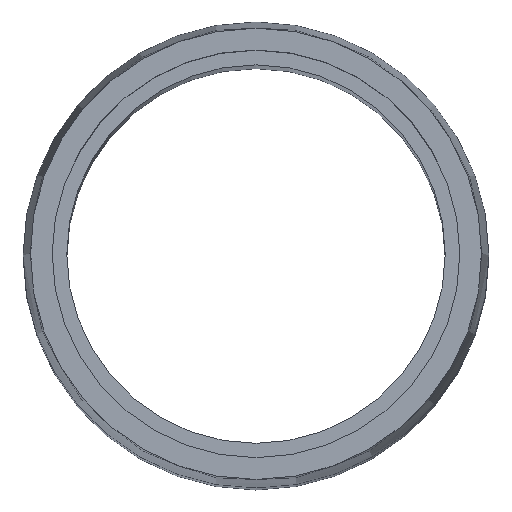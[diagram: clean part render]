
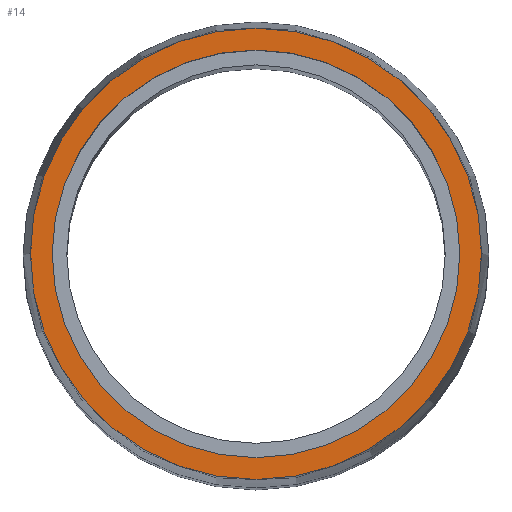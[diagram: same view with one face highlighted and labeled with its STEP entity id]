
A CAD part, top view. The second image highlights one B-rep face of the part: STEP entity #14.
In plain terms, the highlighted planar face has unit normal (0, 0, 1).
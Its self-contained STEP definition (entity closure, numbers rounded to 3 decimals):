
#7 = CIRCLE ( 'NONE', #116, 15.5 ) ;
#8 = DIRECTION ( 'NONE',  ( 0., 0., 1. ) ) ;
#14 = ADVANCED_FACE ( 'NONE', ( #465, #194 ), #27, .T. ) ;
#16 = VERTEX_POINT ( 'NONE', #365 ) ;
#27 = PLANE ( 'NONE',  #265 ) ;
#35 = CIRCLE ( 'NONE', #138, 15.5 ) ;
#36 = CARTESIAN_POINT ( 'NONE',  ( 15.5, 0., 85. ) ) ;
#41 = EDGE_CURVE ( 'NONE', #420, #16, #65, .T. ) ;
#62 = DIRECTION ( 'NONE',  ( 1., 0., 0. ) ) ;
#63 = ORIENTED_EDGE ( 'NONE', *, *, #179, .T. ) ;
#65 = CIRCLE ( 'NONE', #100, 14. ) ;
#74 = CARTESIAN_POINT ( 'NONE',  ( 0., 0., 85. ) ) ;
#83 = ORIENTED_EDGE ( 'NONE', *, *, #152, .T. ) ;
#93 = VERTEX_POINT ( 'NONE', #36 ) ;
#99 = CARTESIAN_POINT ( 'NONE',  ( 0., 0., 85. ) ) ;
#100 = AXIS2_PLACEMENT_3D ( 'NONE', #330, #288, #62 ) ;
#113 = EDGE_LOOP ( 'NONE', ( #83, #63 ) ) ;
#116 = AXIS2_PLACEMENT_3D ( 'NONE', #74, #411, #471 ) ;
#136 = CARTESIAN_POINT ( 'NONE',  ( 14., 0., 85. ) ) ;
#138 = AXIS2_PLACEMENT_3D ( 'NONE', #150, #8, #444 ) ;
#150 = CARTESIAN_POINT ( 'NONE',  ( 0., 0., 85. ) ) ;
#152 = EDGE_CURVE ( 'NONE', #257, #93, #7, .T. ) ;
#155 = AXIS2_PLACEMENT_3D ( 'NONE', #99, #351, #209 ) ;
#179 = EDGE_CURVE ( 'NONE', #93, #257, #35, .T. ) ;
#194 = FACE_OUTER_BOUND ( 'NONE', #113, .T. ) ;
#209 = DIRECTION ( 'NONE',  ( 1., 0., 0. ) ) ;
#221 = CIRCLE ( 'NONE', #155, 14. ) ;
#248 = ORIENTED_EDGE ( 'NONE', *, *, #41, .F. ) ;
#255 = CARTESIAN_POINT ( 'NONE',  ( 0., 0., 85. ) ) ;
#257 = VERTEX_POINT ( 'NONE', #456 ) ;
#265 = AXIS2_PLACEMENT_3D ( 'NONE', #255, #437, #326 ) ;
#271 = EDGE_LOOP ( 'NONE', ( #248, #352 ) ) ;
#288 = DIRECTION ( 'NONE',  ( 0., 0., 1. ) ) ;
#326 = DIRECTION ( 'NONE',  ( 1., 0., 0. ) ) ;
#330 = CARTESIAN_POINT ( 'NONE',  ( 0., 0., 85. ) ) ;
#351 = DIRECTION ( 'NONE',  ( 0., 0., 1. ) ) ;
#352 = ORIENTED_EDGE ( 'NONE', *, *, #354, .F. ) ;
#354 = EDGE_CURVE ( 'NONE', #16, #420, #221, .T. ) ;
#365 = CARTESIAN_POINT ( 'NONE',  ( -14., 0., 85. ) ) ;
#411 = DIRECTION ( 'NONE',  ( 0., 0., 1. ) ) ;
#420 = VERTEX_POINT ( 'NONE', #136 ) ;
#437 = DIRECTION ( 'NONE',  ( 0., 0., 1. ) ) ;
#444 = DIRECTION ( 'NONE',  ( 1., 0., 0. ) ) ;
#456 = CARTESIAN_POINT ( 'NONE',  ( -15.5, 0., 85. ) ) ;
#465 = FACE_BOUND ( 'NONE', #271, .T. ) ;
#471 = DIRECTION ( 'NONE',  ( 1., 0., 0. ) ) ;
